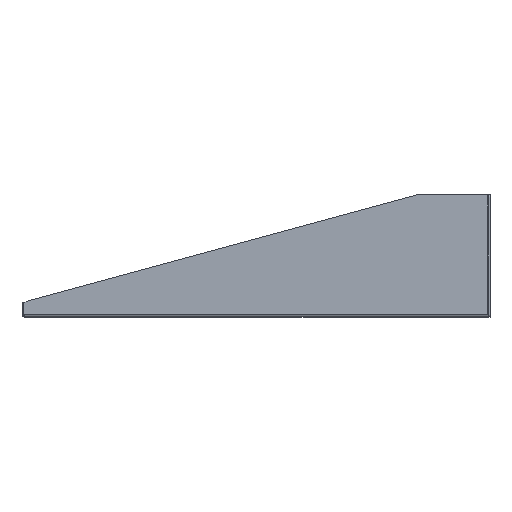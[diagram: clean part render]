
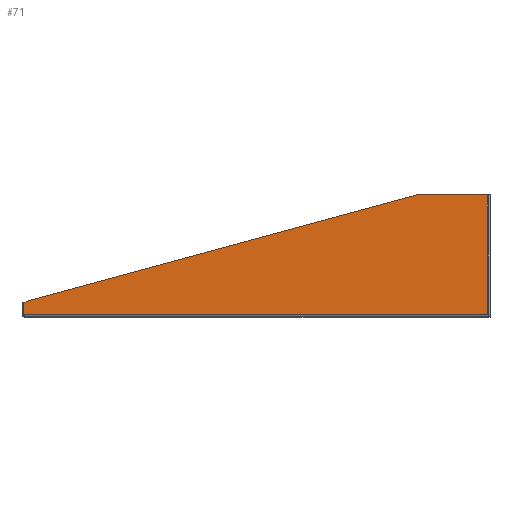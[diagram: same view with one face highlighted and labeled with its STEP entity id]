
A CAD part, left-side view. The second image highlights one B-rep face of the part: STEP entity #71.
In plain terms, the highlighted planar face has unit normal (-1, 0, 0).
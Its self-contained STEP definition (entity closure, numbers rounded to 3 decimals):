
#71 = ADVANCED_FACE( '', ( #1105 ), #1106, .F. );
#1105 = FACE_OUTER_BOUND( '', #2903, .T. );
#1106 = PLANE( '', #2904 );
#2903 = EDGE_LOOP( '', ( #5739, #5740, #5741, #5742, #5743, #5744, #5745, #5746 ) );
#2904 = AXIS2_PLACEMENT_3D( '', #5747, #5748, #5749 );
#5739 = ORIENTED_EDGE( '', *, *, #11858, .T. );
#5740 = ORIENTED_EDGE( '', *, *, #11860, .T. );
#5741 = ORIENTED_EDGE( '', *, *, #11867, .T. );
#5742 = ORIENTED_EDGE( '', *, *, #11868, .F. );
#5743 = ORIENTED_EDGE( '', *, *, #11869, .F. );
#5744 = ORIENTED_EDGE( '', *, *, #11870, .T. );
#5745 = ORIENTED_EDGE( '', *, *, #11871, .T. );
#5746 = ORIENTED_EDGE( '', *, *, #11872, .T. );
#5747 = CARTESIAN_POINT( '', ( -222.25, -253.086, 1.587 ) );
#5748 = DIRECTION( '', ( 1., 0., 0. ) );
#5749 = DIRECTION( '', ( 0., 0., -1. ) );
#11858 = EDGE_CURVE( '', #15198, #15196, #15199, .T. );
#11860 = EDGE_CURVE( '', #15196, #15175, #15201, .T. );
#11867 = EDGE_CURVE( '', #15175, #15159, #15211, .T. );
#11868 = EDGE_CURVE( '', #15212, #15159, #15213, .T. );
#11869 = EDGE_CURVE( '', #15214, #15212, #15215, .T. );
#11870 = EDGE_CURVE( '', #15214, #15216, #15217, .T. );
#11871 = EDGE_CURVE( '', #15216, #15218, #15219, .T. );
#11872 = EDGE_CURVE( '', #15218, #15198, #15220, .F. );
#15159 = VERTEX_POINT( '', #19281 );
#15175 = VERTEX_POINT( '', #19307 );
#15196 = VERTEX_POINT( '', #19370 );
#15198 = VERTEX_POINT( '', #19373 );
#15199 = LINE( '', #19374, #19375 );
#15201 = CIRCLE( '', #19378, 1.397 );
#15211 = LINE( '', #19423, #19424 );
#15212 = VERTEX_POINT( '', #19425 );
#15213 = LINE( '', #19426, #19427 );
#15214 = VERTEX_POINT( '', #19428 );
#15215 = LINE( '', #19429, #19430 );
#15216 = VERTEX_POINT( '', #19431 );
#15217 = LINE( '', #19432, #19433 );
#15218 = VERTEX_POINT( '', #19434 );
#15219 = LINE( '', #19435, #19436 );
#15220 = LINE( '', #19437, #19438 );
#19281 = CARTESIAN_POINT( '', ( -222.25, -252.171, 2.743 ) );
#19307 = CARTESIAN_POINT( '', ( -222.25, 250.714, 2.743 ) );
#19370 = CARTESIAN_POINT( '', ( -222.25, 251.255, 2.963 ) );
#19373 = CARTESIAN_POINT( '', ( -222.25, 251.255, 14.531 ) );
#19374 = CARTESIAN_POINT( '', ( -222.25, 251.255, 132.537 ) );
#19375 = VECTOR( '', #23590, 1000. );
#19378 = AXIS2_PLACEMENT_3D( '', #23592, #23593, #23594 );
#19423 = CARTESIAN_POINT( '', ( -222.25, 253.086, 2.743 ) );
#19424 = VECTOR( '', #23605, 1000. );
#19425 = CARTESIAN_POINT( '', ( -222.25, -252.171, 2.745 ) );
#19426 = CARTESIAN_POINT( '', ( -222.25, -252.171, 2.745 ) );
#19427 = VECTOR( '', #23606, 1000. );
#19428 = CARTESIAN_POINT( '', ( -222.25, -252.171, 132.537 ) );
#19429 = CARTESIAN_POINT( '', ( -222.25, -252.171, 2.745 ) );
#19430 = VECTOR( '', #23607, 1000. );
#19431 = CARTESIAN_POINT( '', ( -222.25, -174.981, 132.537 ) );
#19432 = CARTESIAN_POINT( '', ( -222.25, -253.086, 132.537 ) );
#19433 = VECTOR( '', #23608, 1000. );
#19434 = CARTESIAN_POINT( '', ( -222.25, 248.721, 17.064 ) );
#19435 = CARTESIAN_POINT( '', ( -222.25, -214.465, 143.298 ) );
#19436 = VECTOR( '', #23609, 1000. );
#19437 = CARTESIAN_POINT( '', ( -222.25, 248.721, 17.064 ) );
#19438 = VECTOR( '', #23610, 1000. );
#23590 = DIRECTION( '', ( 0., 0., -1. ) );
#23592 = CARTESIAN_POINT( '', ( -222.25, 251.498, 1.587 ) );
#23593 = DIRECTION( '', ( 1., 0., 0. ) );
#23594 = DIRECTION( '', ( 0., 1., 0. ) );
#23605 = DIRECTION( '', ( 0., -1., 0. ) );
#23606 = DIRECTION( '', ( 0., 0., -1. ) );
#23607 = DIRECTION( '', ( 0., 0., -1. ) );
#23608 = DIRECTION( '', ( 0., 1., 0. ) );
#23609 = DIRECTION( '', ( 0., 0.965, -0.263 ) );
#23610 = DIRECTION( '', ( 0., -0.707, 0.707 ) );
